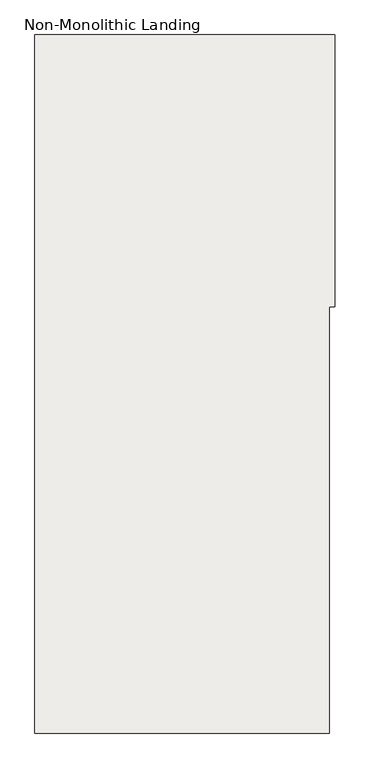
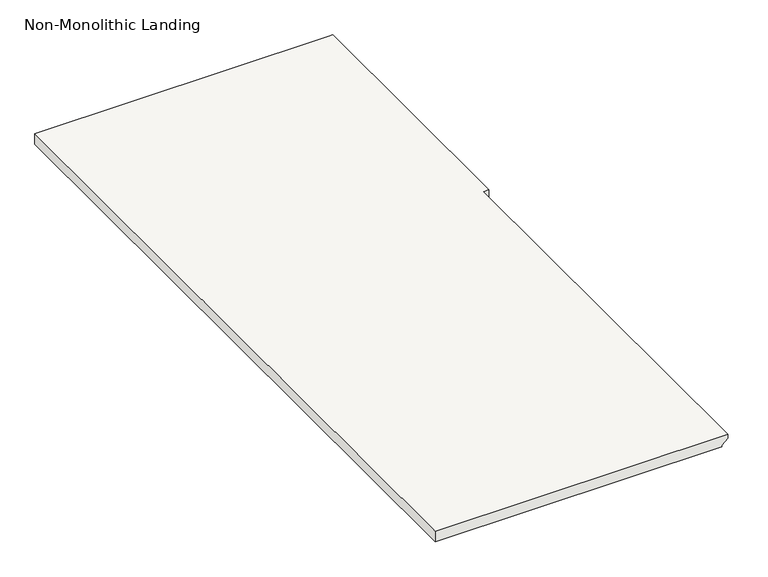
"""IFC4 building model written with IfcOpenShell, lengths in millimetres: slab geometry, Non-Monolithic Landing."""

from ifc_helpers import new_model, si_unit, origin, place, context, project, spatial, faceted_brep, source, transform, mapped, element, save


def non_monolithic_landing_68eda60b(model_context):
    return source(origin(), model_context, "Body", "Brep", [
        faceted_brep([(11137.9000296, 26365.9151067, 2960.4804348), (11112.5000296, 26365.9151067, 2935.0804348), (11112.5000296, 27698.7058721, 2935.0804348), (11137.9000296, 27698.7058721, 2960.4804348), (11137.9000296, 28295.6058669, 2979.5304348), (11163.3000296, 28295.6058669, 2979.5304348), (11163.3000296, 29527.4998803, 2979.5304348), (11137.9000296, 29527.4998803, 2979.5304348), (9804.4000088, 29527.4998803, 2979.5304348), (9804.4000088, 26365.9151067, 2979.5304348), (11137.9000296, 26365.9151067, 2979.5304348), (11112.5000296, 27698.7058721, 2928.7304348), (11112.5000296, 26365.9151067, 2928.7304348), (9804.4000088, 26365.9151067, 2928.7304348), (9804.4000088, 29527.4998803, 2928.7304348), (11137.9000296, 29527.4998803, 2928.7304348), (11163.3000296, 29527.4998803, 2928.7304348), (11163.3000296, 28295.6058669, 2928.7304348), (11137.9000296, 28295.6058669, 2928.7304348), (11137.9000296, 27698.7058721, 2928.7304348)], [[[0, 1, 2, 3]], [[4, 5, 6, 7, 8, 9, 10]], [[11, 12, 13, 14, 15, 16, 17, 18, 19]], [[12, 11, 2, 1]], [[11, 19, 3, 2]], [[4, 10, 0, 3, 19, 18]], [[5, 4, 18, 17]], [[6, 5, 17, 16]], [[7, 6, 16, 15]], [[8, 7, 15, 14]], [[9, 8, 14, 13]], [[10, 9, 13, 12, 1, 0]]]),
    ])


if __name__ == "__main__":
    model = new_model("IFC4")
    model_context = context("Model", 3, world=origin())
    ifc_project = project(units=[si_unit("LENGTHUNIT", "METRE", prefix="MILLI")], contexts=[model_context])
    site = spatial("IfcSite", under=ifc_project)
    building = spatial("IfcBuilding", under=site)
    placement = place(None, origin())
    non_monolithic_landing_shape = non_monolithic_landing_68eda60b(model_context)
    element("IfcSlab", 1, ObjectType="Non-Monolithic Landing", at=placement, inside=building, context=model_context, shape_type="MappedRepresentation", body=[
        mapped(non_monolithic_landing_shape, transform((0.0, 0.0, 0.0), x_axis=(1.0, 0.0, 0.0), y_axis=(0.0, 1.0, 0.0), z_axis=(0.0, 0.0, 1.0))),
    ])
    save(model, "model.ifc")
